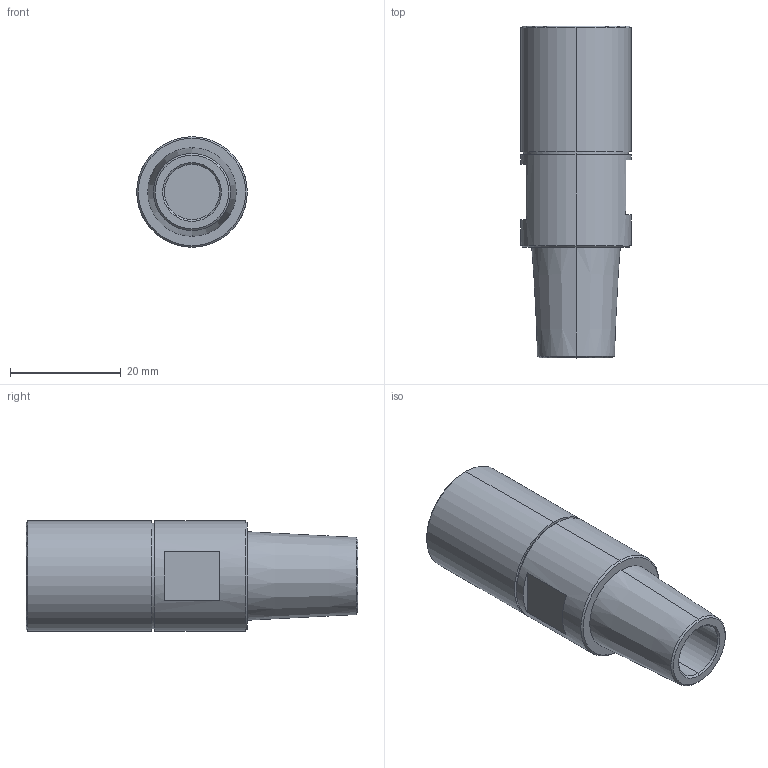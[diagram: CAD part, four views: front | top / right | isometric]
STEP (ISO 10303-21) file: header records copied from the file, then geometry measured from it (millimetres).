
FILE_DESCRIPTION (( 'STEP AP203' ), '1' );
FILE_NAME ('SW-PB-D10-1.STEP', '2022-06-14T04:27:26', ( '' ), ( '' ), 'SwSTEP 2.0', 'SolidWorks 2015', '' );
FILE_SCHEMA (( 'CONFIG_CONTROL_DESIGN' ));
Length unit declared in the file: millimetre
Products named in the file (2): SW-PB-D10-1
Bounding box: 20 x 60 x 20 mm (x, y, z)
Volume: 13036 mm3; surface area: 5237.6 mm2
Topology: 1 solids, 1 shells, 30 faces, 58 edges, 36 vertices
Faces by surface type: plane 12, cone 10, cylinder 8
Entity records: 1013 total; most frequent: CARTESIAN_POINT 226, DIRECTION 146, ORIENTED_EDGE 116, AXIS2_PLACEMENT_3D 60, EDGE_CURVE 58, EDGE_LOOP 36, VERTEX_POINT 36, ADVANCED_FACE 30
